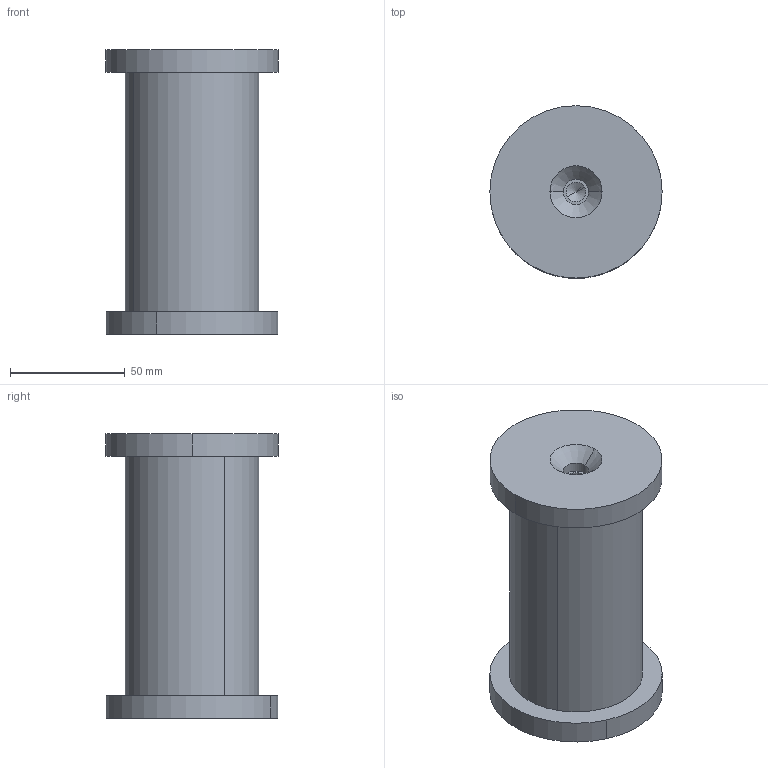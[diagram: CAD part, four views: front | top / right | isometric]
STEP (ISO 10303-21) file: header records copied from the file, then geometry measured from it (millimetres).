
FILE_DESCRIPTION (( 'STEP AP203' ), '1' );
FILE_NAME ('Bolzen Scheibe A M56.STEP', '2018-02-20T07:37:54', ( 'install' ), ( 'Hewlett-Packard Company' ), 'SwSTEP 2.0', 'SolidWorks 2017', '' );
FILE_SCHEMA (( 'CONFIG_CONTROL_DESIGN' ));
Length unit declared in the file: millimetre
Products named in the file (3): Scheibe_M56; Bolzen ScheibeVarA_generisch_M56; Bolzen Scheibe A M56
Assembly tree (3 placements, depth 2):
  Bolzen Scheibe A M56
    Scheibe_M56  x2
    Bolzen ScheibeVarA_generisch_M56
Bounding box: 75 x 75 x 124 mm (x, y, z)
Volume: 356663 mm3; surface area: 48151.4 mm2
Topology: 3 solids, 3 shells, 28 faces, 58 edges, 34 vertices
Faces by surface type: cylinder 14, cone 8, plane 6
Entity records: 853 total; most frequent: DIRECTION 112, CARTESIAN_POINT 88, ORIENTED_EDGE 76, AXIS2_PLACEMENT_3D 48, EDGE_CURVE 38, PERSON_AND_ORGANIZATION 27, VERTEX_POINT 24, EDGE_LOOP 24
